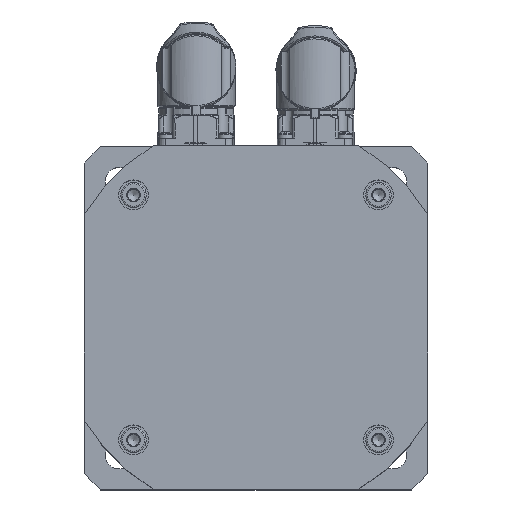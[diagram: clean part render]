
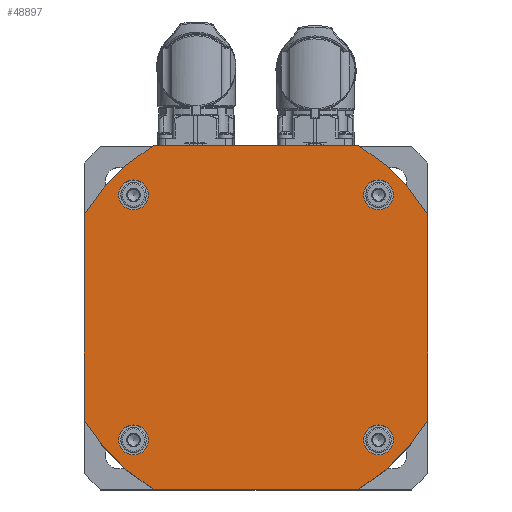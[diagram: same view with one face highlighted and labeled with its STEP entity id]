
A CAD part, top view. The second image highlights one B-rep face of the part: STEP entity #48897.
In plain terms, the highlighted planar face has unit normal (0, 0, 1).
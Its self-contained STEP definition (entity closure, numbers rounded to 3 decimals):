
#7400=FACE_BOUND('',#11566,.T.);
#7401=FACE_BOUND('',#11567,.T.);
#7402=FACE_BOUND('',#11568,.T.);
#7403=FACE_BOUND('',#11569,.T.);
#7404=FACE_BOUND('',#11570,.T.);
#7815=PLANE('',#52114);
#11566=EDGE_LOOP('',(#33661));
#11567=EDGE_LOOP('',(#33662));
#11568=EDGE_LOOP('',(#33663));
#11569=EDGE_LOOP('',(#33664));
#11570=EDGE_LOOP('',(#33665,#33666,#33667,#33668,#33669,#33670,#33671,#33672));
#14995=CIRCLE('',#52083,5.);
#14997=CIRCLE('',#52087,5.);
#14999=CIRCLE('',#52091,5.);
#15001=CIRCLE('',#52095,5.);
#15004=CIRCLE('',#52100,67.);
#15006=CIRCLE('',#52104,67.);
#15008=CIRCLE('',#52108,67.);
#15010=CIRCLE('',#52112,67.);
#17758=LINE('',#70968,#19579);
#17762=LINE('',#70980,#19583);
#17766=LINE('',#70992,#19587);
#17770=LINE('',#71002,#19591);
#19579=VECTOR('',#57903,68.782);
#19583=VECTOR('',#57915,68.782);
#19587=VECTOR('',#57927,68.782);
#19591=VECTOR('',#57939,68.782);
#21450=VERTEX_POINT('',#70932);
#21452=VERTEX_POINT('',#70938);
#21454=VERTEX_POINT('',#70944);
#21456=VERTEX_POINT('',#70950);
#21460=VERTEX_POINT('',#70959);
#21461=VERTEX_POINT('',#70961);
#21463=VERTEX_POINT('',#70967);
#21465=VERTEX_POINT('',#70973);
#21467=VERTEX_POINT('',#70979);
#21469=VERTEX_POINT('',#70985);
#21471=VERTEX_POINT('',#70991);
#21473=VERTEX_POINT('',#70997);
#26098=EDGE_CURVE('',#21450,#21450,#14995,.T.);
#26100=EDGE_CURVE('',#21452,#21452,#14997,.T.);
#26102=EDGE_CURVE('',#21454,#21454,#14999,.T.);
#26104=EDGE_CURVE('',#21456,#21456,#15001,.T.);
#26108=EDGE_CURVE('',#21461,#21460,#15004,.T.);
#26111=EDGE_CURVE('',#21463,#21461,#17758,.T.);
#26114=EDGE_CURVE('',#21465,#21463,#15006,.T.);
#26117=EDGE_CURVE('',#21467,#21465,#17762,.T.);
#26120=EDGE_CURVE('',#21469,#21467,#15008,.T.);
#26123=EDGE_CURVE('',#21471,#21469,#17766,.T.);
#26126=EDGE_CURVE('',#21473,#21471,#15010,.T.);
#26129=EDGE_CURVE('',#21460,#21473,#17770,.T.);
#33661=ORIENTED_EDGE('',*,*,#26098,.T.);
#33662=ORIENTED_EDGE('',*,*,#26100,.T.);
#33663=ORIENTED_EDGE('',*,*,#26102,.T.);
#33664=ORIENTED_EDGE('',*,*,#26104,.T.);
#33665=ORIENTED_EDGE('',*,*,#26129,.T.);
#33666=ORIENTED_EDGE('',*,*,#26126,.T.);
#33667=ORIENTED_EDGE('',*,*,#26123,.T.);
#33668=ORIENTED_EDGE('',*,*,#26120,.T.);
#33669=ORIENTED_EDGE('',*,*,#26117,.T.);
#33670=ORIENTED_EDGE('',*,*,#26114,.T.);
#33671=ORIENTED_EDGE('',*,*,#26111,.T.);
#33672=ORIENTED_EDGE('',*,*,#26108,.T.);
#48897=ADVANCED_FACE('',(#7400,#7401,#7402,#7403,#7404),#7815,.T.);
#52083=AXIS2_PLACEMENT_3D('',#70933,#57862,#57863);
#52087=AXIS2_PLACEMENT_3D('',#70939,#57870,#57871);
#52091=AXIS2_PLACEMENT_3D('',#70945,#57878,#57879);
#52095=AXIS2_PLACEMENT_3D('',#70951,#57886,#57887);
#52100=AXIS2_PLACEMENT_3D('',#70962,#57897,#57898);
#52104=AXIS2_PLACEMENT_3D('',#70974,#57909,#57910);
#52108=AXIS2_PLACEMENT_3D('',#70986,#57921,#57922);
#52112=AXIS2_PLACEMENT_3D('',#70998,#57933,#57934);
#52114=AXIS2_PLACEMENT_3D('',#71003,#57940,#57941);
#57862=DIRECTION('center_axis',(0.,0.,-1.));
#57863=DIRECTION('ref_axis',(0.,-1.,0.));
#57870=DIRECTION('center_axis',(0.,0.,-1.));
#57871=DIRECTION('ref_axis',(-1.,0.,0.));
#57878=DIRECTION('center_axis',(0.,0.,-1.));
#57879=DIRECTION('ref_axis',(0.,1.,0.));
#57886=DIRECTION('center_axis',(0.,0.,-1.));
#57887=DIRECTION('ref_axis',(1.,0.,0.));
#57897=DIRECTION('center_axis',(0.,0.,1.));
#57898=DIRECTION('ref_axis',(0.858,0.513,0.));
#57903=DIRECTION('',(0.,1.,0.));
#57909=DIRECTION('center_axis',(0.,0.,1.));
#57910=DIRECTION('ref_axis',(0.513,-0.858,0.));
#57915=DIRECTION('',(1.,0.,0.));
#57921=DIRECTION('center_axis',(0.,0.,1.));
#57922=DIRECTION('ref_axis',(-0.858,-0.513,0.));
#57927=DIRECTION('',(0.,-1.,0.));
#57933=DIRECTION('center_axis',(0.,0.,1.));
#57934=DIRECTION('ref_axis',(-0.513,0.858,0.));
#57939=DIRECTION('',(-1.,0.,0.));
#57940=DIRECTION('center_axis',(0.,0.,1.));
#57941=DIRECTION('ref_axis',(1.,0.,0.));
#70932=CARTESIAN_POINT('',(41.012,-46.012,160.5));
#70933=CARTESIAN_POINT('Origin',(41.012,-41.012,160.5));
#70938=CARTESIAN_POINT('',(-46.012,-41.012,160.5));
#70939=CARTESIAN_POINT('Origin',(-41.012,-41.012,160.5));
#70944=CARTESIAN_POINT('',(-41.012,46.012,160.5));
#70945=CARTESIAN_POINT('Origin',(-41.012,41.012,160.5));
#70950=CARTESIAN_POINT('',(46.012,41.012,160.5));
#70951=CARTESIAN_POINT('Origin',(41.012,41.012,160.5));
#70959=CARTESIAN_POINT('',(34.391,57.5,160.5));
#70961=CARTESIAN_POINT('',(57.5,34.391,160.5));
#70962=CARTESIAN_POINT('Origin',(0.,0.,160.5));
#70967=CARTESIAN_POINT('',(57.5,-34.391,160.5));
#70968=CARTESIAN_POINT('',(57.5,-57.5,160.5));
#70973=CARTESIAN_POINT('',(34.391,-57.5,160.5));
#70974=CARTESIAN_POINT('Origin',(0.,0.,160.5));
#70979=CARTESIAN_POINT('',(-34.391,-57.5,160.5));
#70980=CARTESIAN_POINT('',(-57.5,-57.5,160.5));
#70985=CARTESIAN_POINT('',(-57.5,-34.391,160.5));
#70986=CARTESIAN_POINT('Origin',(0.,0.,160.5));
#70991=CARTESIAN_POINT('',(-57.5,34.391,160.5));
#70992=CARTESIAN_POINT('',(-57.5,57.5,160.5));
#70997=CARTESIAN_POINT('',(-34.391,57.5,160.5));
#70998=CARTESIAN_POINT('Origin',(0.,0.,160.5));
#71002=CARTESIAN_POINT('',(57.5,57.5,160.5));
#71003=CARTESIAN_POINT('Origin',(0.,0.,
160.5));
